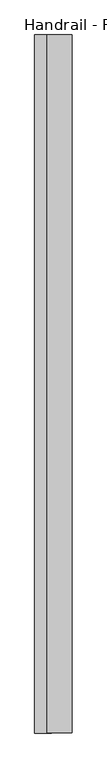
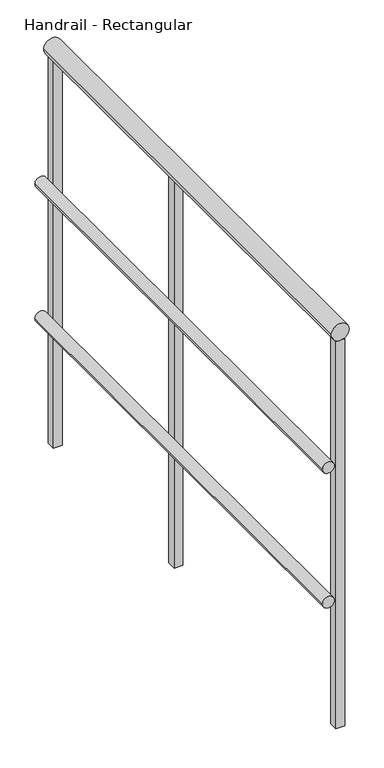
"""IFC4 building model written with IfcOpenShell, lengths in millimetres: railing geometry, Handrail - Rectangular."""

from ifc_helpers import new_model, si_unit, point, frame, frame_2d, origin, place, context, project, spatial, polyline, circle_curve, trimmed, segment, composite_curve, outline, extrude, source, transform, mapped, element, save


def handrail_rectangular_7ab70122(model_context):
    return source(origin(), model_context, "Body", "SweptSolid", [
        extrude(outline(composite_curve([segment(trimmed(circle_curve(frame_2d((9740.9, -32192.8839563)), 12.7), [point((9740.9, -32205.5839563))], [point((9740.9, -32180.1839563))], False, "CARTESIAN"), True, "CONTINUOUS"), segment(trimmed(circle_curve(frame_2d((9740.9, -32192.8839563)), 12.7), [point((9740.9, -32180.1839563))], [point((9740.9, -32205.5839563))], False, "CARTESIAN"), True, "CONTINUOUS")], self_intersect=False)), frame((0.0, -31539.9683133, 0.0), z_axis=(0.0, 1.0, 0.0), x_axis=(0.0, 0.0, 1.0)), (0.0, 0.0, 1.0), 1066.8),
        extrude(outline(composite_curve([segment(trimmed(circle_curve(frame_2d((9436.1, -32192.8839563)), 12.7), [point((9436.1, -32205.5839563))], [point((9436.1, -32180.1839563))], False, "CARTESIAN"), True, "CONTINUOUS"), segment(trimmed(circle_curve(frame_2d((9436.1, -32192.8839563)), 12.7), [point((9436.1, -32180.1839563))], [point((9436.1, -32205.5839563))], False, "CARTESIAN"), True, "CONTINUOUS")], self_intersect=False)), frame((0.0, -31539.9683133, 0.0), z_axis=(0.0, 1.0, 0.0), x_axis=(0.0, 0.0, 1.0)), (0.0, 0.0, 1.0), 1066.8),
        extrude(outline(composite_curve([segment(trimmed(circle_curve(frame_2d((10039.35, -32167.4839563)), 19.05), [point((10039.35, -32186.5339563))], [point((10039.35, -32148.4339563))], False, "CARTESIAN"), True, "CONTINUOUS"), segment(trimmed(circle_curve(frame_2d((10039.35, -32167.4839563)), 19.05), [point((10039.35, -32148.4339563))], [point((10039.35, -32186.5339563))], False, "CARTESIAN"), True, "CONTINUOUS")], self_intersect=False)), frame((0.0, -31539.9683133, 0.0), z_axis=(0.0, 1.0, 0.0), x_axis=(0.0, 0.0, 1.0)), (0.0, 0.0, 1.0), 1066.8),
        extrude(outline(polyline([(-32157.9589563, -30939.8933133), (-32177.0089563, -30939.8933133), (-32177.0089563, -30920.8433133), (-32157.9589563, -30920.8433133), (-32157.9589563, -30939.8933133)])), frame((0.0, 0.0, 9144.0), z_axis=(0.0, 0.0, 1.0), x_axis=(1.0, 0.0, 0.0)), (0.0, 0.0, 1.0), 876.3),
        extrude(outline(polyline([(-32157.9589563, -30492.2183133), (-32177.0089563, -30492.2183133), (-32177.0089563, -30473.1683133), (-32157.9589563, -30473.1683133), (-32157.9589563, -30492.2183133)])), frame((0.0, 0.0, 9144.0), z_axis=(0.0, 0.0, 1.0), x_axis=(1.0, 0.0, 0.0)), (0.0, 0.0, 1.0), 876.3),
        extrude(outline(polyline([(-32157.9589563, -31539.9683133), (-32177.0089563, -31539.9683133), (-32177.0089563, -31520.9183133), (-32157.9589563, -31520.9183133), (-32157.9589563, -31539.9683133)])), frame((0.0, 0.0, 9144.0), z_axis=(0.0, 0.0, 1.0), x_axis=(1.0, 0.0, 0.0)), (0.0, 0.0, 1.0), 876.3),
    ])


if __name__ == "__main__":
    model = new_model("IFC4")
    model_context = context("Model", 3, world=origin())
    ifc_project = project(units=[si_unit("LENGTHUNIT", "METRE", prefix="MILLI")], contexts=[model_context])
    site = spatial("IfcSite", under=ifc_project)
    building = spatial("IfcBuilding", under=site)
    placement = place(None, origin())
    handrail_rectangular_shape = handrail_rectangular_7ab70122(model_context)
    element("IfcRailing", 1, ObjectType="Handrail - Rectangular", at=placement, inside=building, context=model_context, shape_type="MappedRepresentation", body=[
        mapped(handrail_rectangular_shape, transform((0.0, 0.0, 0.0), x_axis=(1.0, 0.0, 0.0), y_axis=(0.0, 1.0, 0.0), z_axis=(0.0, 0.0, 1.0))),
    ])
    save(model, "model.ifc")
